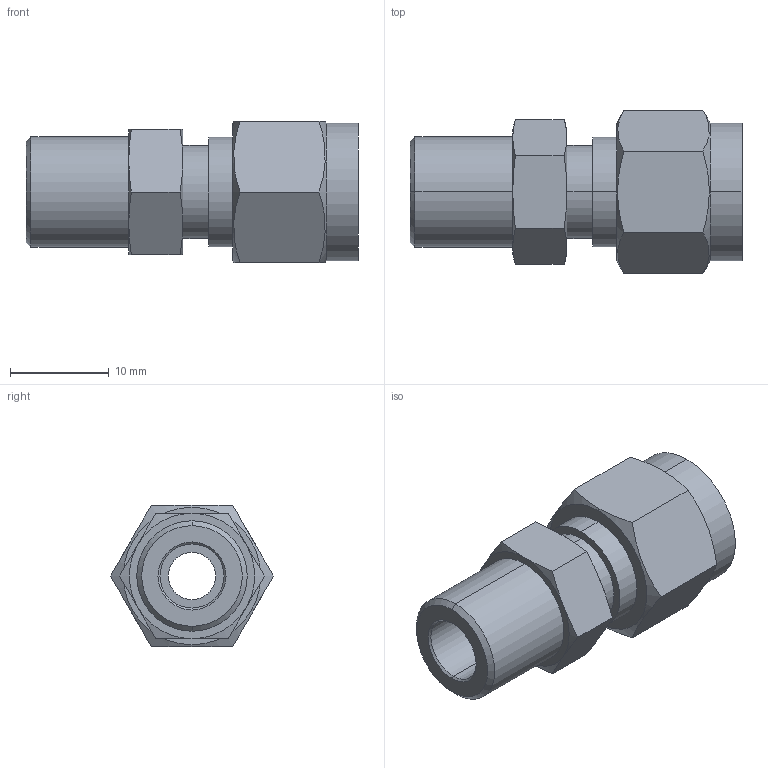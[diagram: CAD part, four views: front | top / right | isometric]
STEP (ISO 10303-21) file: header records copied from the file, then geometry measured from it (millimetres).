
FILE_DESCRIPTION (( 'STEP AP203' ), '1' );
FILE_NAME ('DCW04-04 SS.STEP', '2009-09-08T05:53:05', ( ' ' ), ( '' ), 'SwSTEP 2.0', 'SolidWorks 2008', '' );
FILE_SCHEMA (( 'CONFIG_CONTROL_DESIGN' ));
Length unit declared in the file: millimetre
Products named in the file (1): DCW04-04 SS
Bounding box: 33.6 x 16.5 x 14.29 mm (x, y, z)
Volume: 3415.8 mm3; surface area: 2413.1 mm2
Topology: 1 solids, 1 shells, 54 faces, 120 edges, 74 vertices
Faces by surface type: cone 20, plane 20, cylinder 14
Entity records: 1695 total; most frequent: CARTESIAN_POINT 457, ORIENTED_EDGE 240, DIRECTION 236, EDGE_CURVE 120, AXIS2_PLACEMENT_3D 101, VERTEX_POINT 74, EDGE_LOOP 62, ADVANCED_FACE 54
